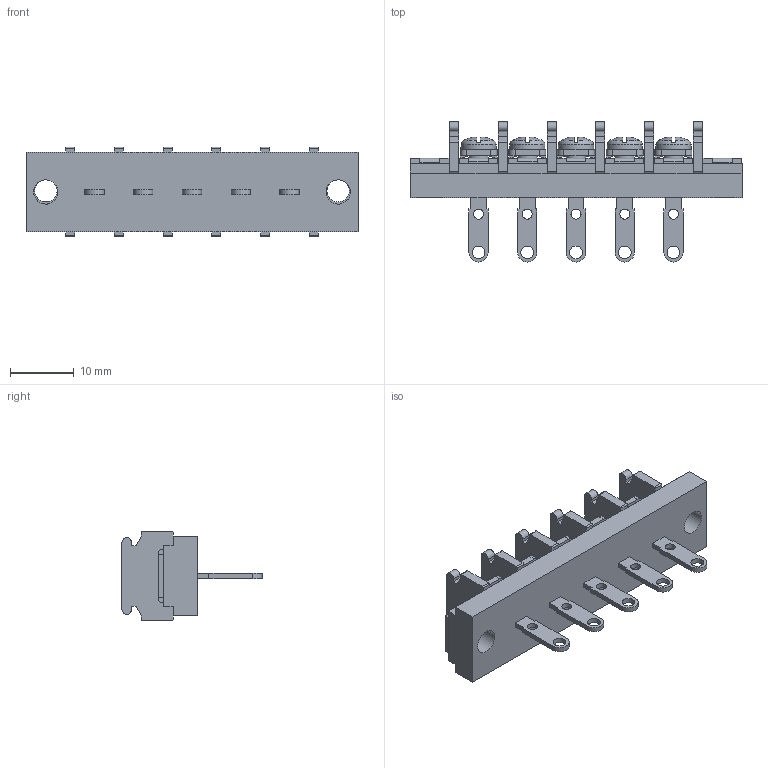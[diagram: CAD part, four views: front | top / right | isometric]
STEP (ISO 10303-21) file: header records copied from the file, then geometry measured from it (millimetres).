
FILE_DESCRIPTION(/* description */ ('Alibre Inc.'),/* implementation_level */ '2;1');
FILE_NAME(/* name */ 'export0',/* time_stamp */ '2015-10-26T16:36:24+09:00',/* author */ (''),/* organization */ (''),/* preprocessor_version */ 'ST-DEVELOPER v14',/* originating_system */ 'Alibre',/* authorisation */ '');
FILE_SCHEMA (('CONFIG_CONTROL_DESIGN'));
Length unit declared in the file: centimetre
Products named in the file (1): ID_1
Bounding box: 51.92 x 21.9 x 14 mm (x, y, z)
Volume: 4573.9 mm3; surface area: 4591.1 mm2
Topology: 1 solids, 17 shells, 1042 faces, 2820 edges, 1854 vertices
Faces by surface type: plane 799, bspline 104, cylinder 99, cone 20, torus 10, sphere 10
Full cylindrical faces by diameter (mm): 1.57 x5, 2 x5, 3 x5, 3.5 x2, 3.8 x2, 5.5 x5
Entity records: 31073 total; most frequent: CARTESIAN_POINT 6752, ORIENTED_EDGE 5544, DIRECTION 3779, EDGE_CURVE 2772, VECTOR 2052, LINE 2052, VERTEX_POINT 1840, AXIS2_PLACEMENT_3D 1232
